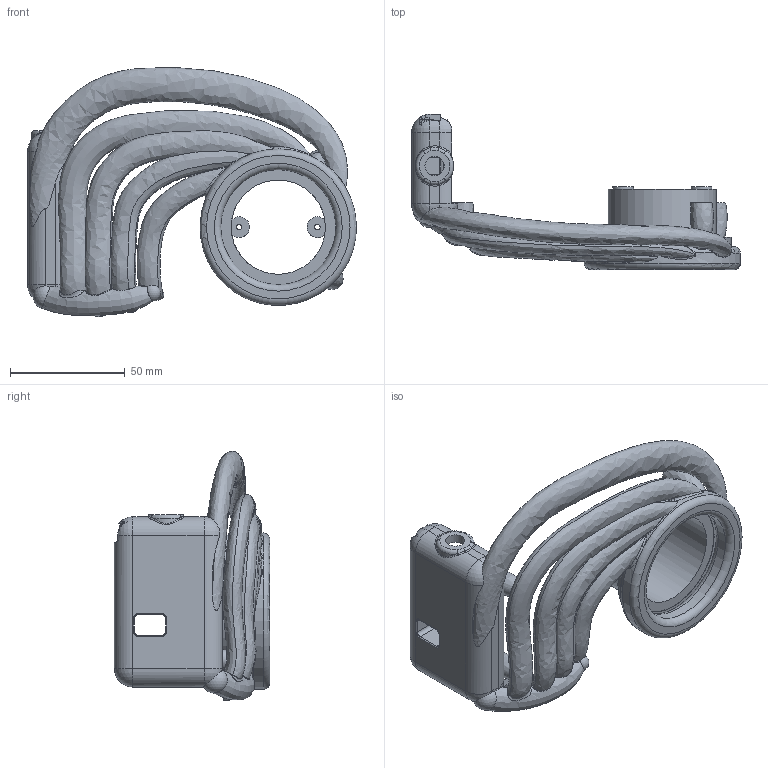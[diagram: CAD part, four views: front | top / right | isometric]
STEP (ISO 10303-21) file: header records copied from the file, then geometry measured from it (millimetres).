
FILE_DESCRIPTION(('Open CASCADE Model'),'2;1');
FILE_NAME('Open CASCADE Shape Model','2026-10-20T16:48:55',('Author'),( 'Open CASCADE'),'Open CASCADE STEP processor 7.8','Open CASCADE 7.8' ,'Unknown');
FILE_SCHEMA(('AUTOMOTIVE_DESIGN { 1 0 10303 214 1 1 1 1 }'));
Length unit declared in the file: millimetre
Products named in the file (1): Open CASCADE STEP translator 7.8 11
Bounding box: 142.97 x 67.5 x 108.32 mm (x, y, z)
Volume: 122494.8 mm3; surface area: 47021.7 mm2
Topology: 1 solids, 1 shells, 247 faces, 679 edges, 414 vertices
Faces by surface type: bspline 90, plane 77, cylinder 56, sphere 14, torus 10
Full cylindrical faces by diameter (mm): 1.8 x5, 2.4 x2, 8.4 x1, 9 x2, 41 x1, 47 x1, 50 x2
Entity records: 60882 total; most frequent: CARTESIAN_POINT 49719, DIRECTION 1500, ORIENTED_EDGE 1322, PCURVE 1322, DEFINITIONAL_REPRESENTATION 1322, B_SPLINE_CURVE_WITH_KNOTS 785, LINE 784, VECTOR 784
